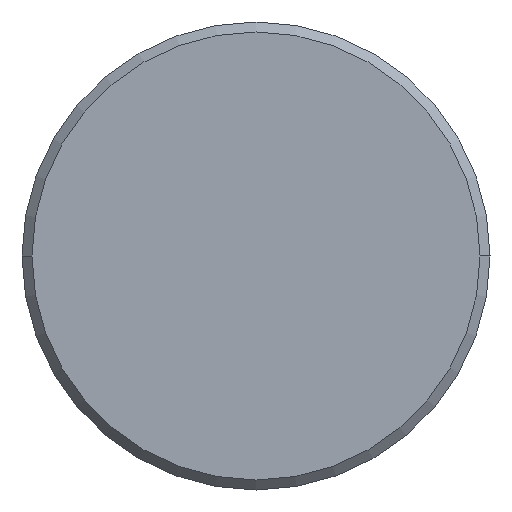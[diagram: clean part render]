
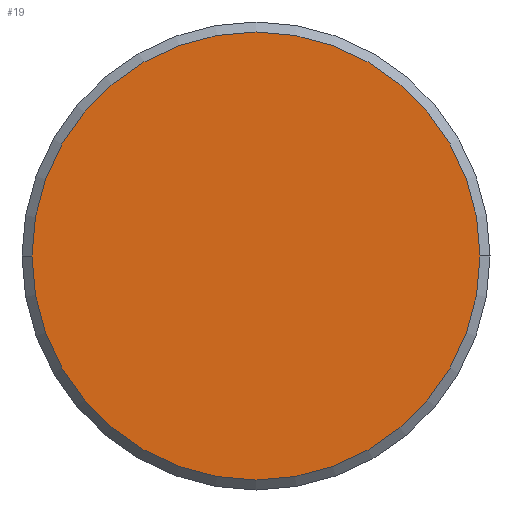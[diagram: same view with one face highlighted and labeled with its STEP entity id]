
A CAD part, left-side view. The second image highlights one B-rep face of the part: STEP entity #19.
In plain terms, the highlighted planar face has unit normal (-1, 0, 0).
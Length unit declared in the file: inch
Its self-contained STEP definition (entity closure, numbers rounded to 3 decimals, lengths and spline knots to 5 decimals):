
#3 = EDGE_CURVE ( 'NONE', #73, #358, #81, .T. ) ;
#19 = ADVANCED_FACE ( 'NONE', ( #274 ), #159, .T. ) ;
#43 = CARTESIAN_POINT ( 'NONE',  ( 0., -0.08975, 0. ) ) ;
#69 = DIRECTION ( 'NONE',  ( 0., -1., 0. ) ) ;
#73 = VERTEX_POINT ( 'NONE', #43 ) ;
#81 = CIRCLE ( 'NONE', #98, 0.08975 ) ;
#95 = CARTESIAN_POINT ( 'NONE',  ( 0., 0., 0. ) ) ;
#98 = AXIS2_PLACEMENT_3D ( 'NONE', #95, #128, #333 ) ;
#101 = ORIENTED_EDGE ( 'NONE', *, *, #148, .T. ) ;
#128 = DIRECTION ( 'NONE',  ( -1., 0., 0. ) ) ;
#148 = EDGE_CURVE ( 'NONE', #358, #73, #279, .T. ) ;
#159 = PLANE ( 'NONE',  #260 ) ;
#185 = CARTESIAN_POINT ( 'NONE',  ( 0., 0., 0. ) ) ;
#193 = EDGE_LOOP ( 'NONE', ( #101, #329 ) ) ;
#218 = DIRECTION ( 'NONE',  ( -1., 0., 0. ) ) ;
#233 = CARTESIAN_POINT ( 'NONE',  ( 0., 0., 0. ) ) ;
#260 = AXIS2_PLACEMENT_3D ( 'NONE', #185, #218, #69 ) ;
#274 = FACE_OUTER_BOUND ( 'NONE', #193, .T. ) ;
#279 = CIRCLE ( 'NONE', #331, 0.08975 ) ;
#298 = CARTESIAN_POINT ( 'NONE',  ( 0., 0.08975, 0. ) ) ;
#320 = DIRECTION ( 'NONE',  ( -1., 0., 0. ) ) ;
#329 = ORIENTED_EDGE ( 'NONE', *, *, #3, .T. ) ;
#331 = AXIS2_PLACEMENT_3D ( 'NONE', #233, #320, #378 ) ;
#333 = DIRECTION ( 'NONE',  ( 0., -1., 0. ) ) ;
#358 = VERTEX_POINT ( 'NONE', #298 ) ;
#378 = DIRECTION ( 'NONE',  ( 0., -1., 0. ) ) ;
